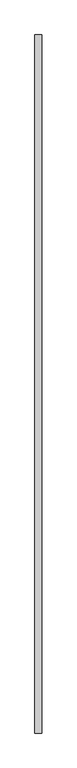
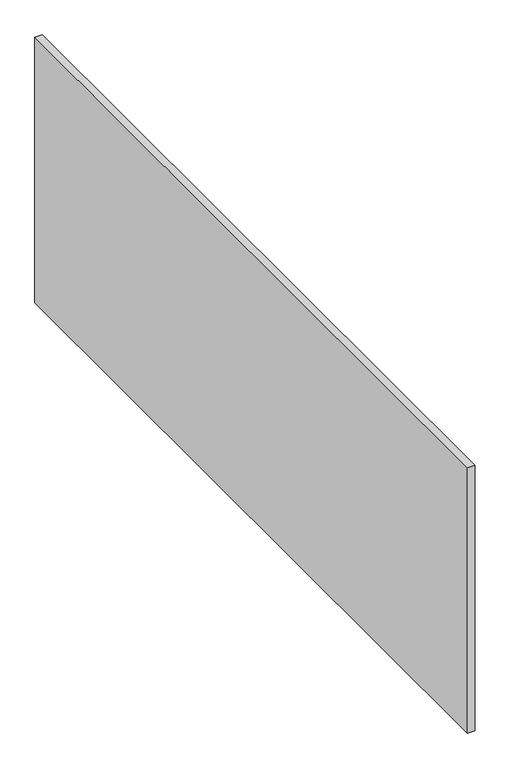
"""IFC4 building model written with IfcOpenShell, lengths in millimetres: proxy geometry, .ESPELHO1 : .ESPELHO."""

from ifc_helpers import new_model, si_unit, frame, origin, place, context, project, spatial, polyline, outline, extrude, source, transform, mapped, element, save


def generic_models_804a1c8a(model_context):
    return source(origin(), model_context, "Body", "SweptSolid", [
        extrude(outline(polyline([(-5757.2739616, -15274.4451588), (-5757.2739616, -17274.4451588), (-5777.2739616, -17274.4451588), (-5777.2739616, -15274.4451588), (-5757.2739616, -15274.4451588)])), frame((0.0, 0.0, 1051.3302606), z_axis=(0.0, 0.0, 1.0), x_axis=(1.0, 0.0, 0.0)), (0.0, 0.0, 1.0), 748.6697394),
    ])


if __name__ == "__main__":
    model = new_model("IFC4")
    model_context = context("Model", 3, world=origin())
    ifc_project = project(units=[si_unit("LENGTHUNIT", "METRE", prefix="MILLI")], contexts=[model_context])
    site = spatial("IfcSite", under=ifc_project)
    building = spatial("IfcBuilding", under=site)
    placement = place(None, origin())
    generic_models_shape = generic_models_804a1c8a(model_context)
    element("IfcBuildingElementProxy", 1, Name=".ESPELHO1 : .ESPELHO", ObjectType=".ESPELHO1 : .ESPELHO", at=placement, inside=building, context=model_context, shape_type="MappedRepresentation", body=[
        mapped(generic_models_shape, transform((0.0, 0.0, 0.0), x_axis=(1.0, 0.0, 0.0), y_axis=(0.0, 1.0, 0.0), z_axis=(0.0, 0.0, 1.0))),
    ])
    save(model, "model.ifc")
